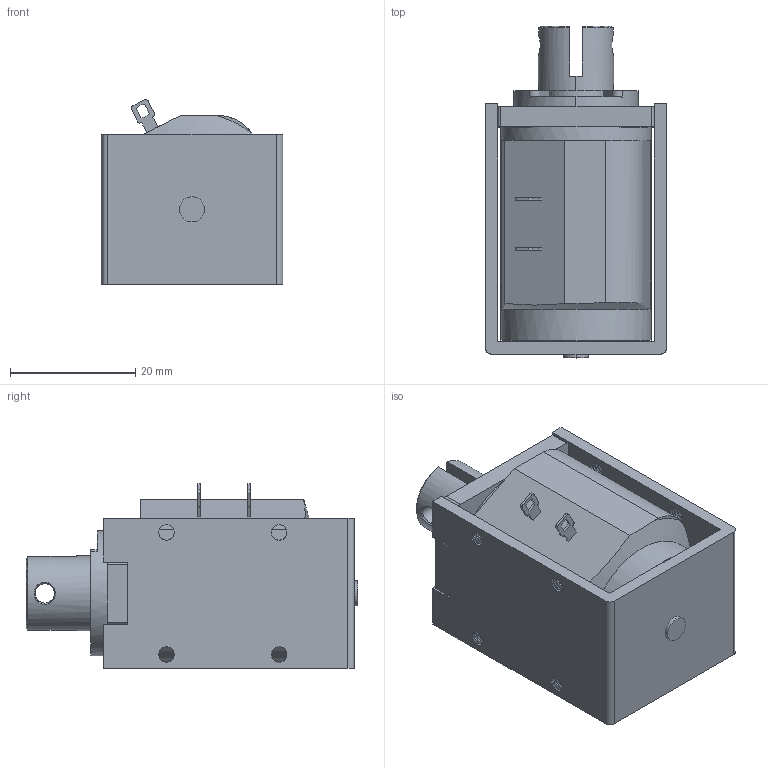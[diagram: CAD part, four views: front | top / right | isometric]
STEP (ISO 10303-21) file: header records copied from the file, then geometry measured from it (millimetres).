
FILE_DESCRIPTION (( 'STEP AP203' ), '1' );
FILE_NAME ('僜儗僲僀僪RGE-CA1073NX-3D.STEP', '2026-06-25T02:32:54', ( '' ), ( '' ), 'SwSTEP 2.0', 'SolidWorks 2026', '' );
FILE_SCHEMA (( 'CONFIG_CONTROL_DESIGN' ));
Length unit declared in the file: millimetre
Products named in the file (1): ソレノイドRGE-CA1073NX-3D
Bounding box: 29 x 53.05 x 29.56 mm (x, y, z)
Volume: 26138.6 mm3; surface area: 10148.3 mm2
Topology: 1 solids, 1 shells, 247 faces, 701 edges, 459 vertices
Faces by surface type: cylinder 131, plane 85, bspline 28, cone 3
Entity records: 15577 total; most frequent: CARTESIAN_POINT 9508, ORIENTED_EDGE 1402, DIRECTION 1114, EDGE_CURVE 701, VERTEX_POINT 459, AXIS2_PLACEMENT_3D 385, LINE 344, VECTOR 344
